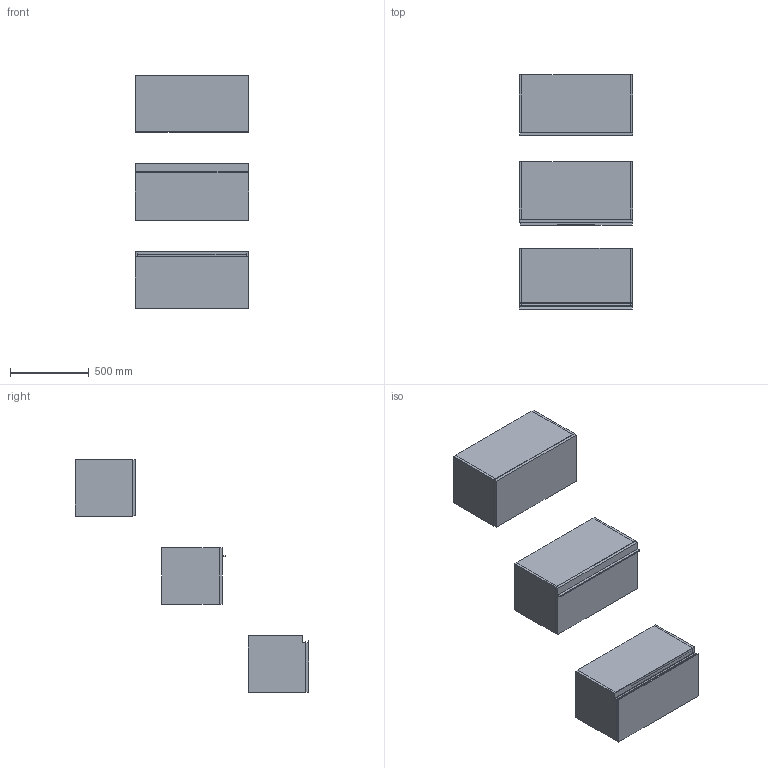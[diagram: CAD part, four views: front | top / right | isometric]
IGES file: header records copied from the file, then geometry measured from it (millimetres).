
Start section: Data from Parasolid IGES Translator 19.0.9, Copyright(c) 2006 Siemens PL M Software. All Rights Reserved.
Global section: file name: noorth-SI-H 36 D 38,8 W 72_8334.igs; native system: By Siemens PLM Incorporated; preprocessor: XPlus GENERIC/IGES 19.0.9; author: Noname; organization: Noname; date: 20200530.133007; units: metre
Bounding box: 721.02 x 1485.1 x 1480 mm (x, y, z)
Volume: 52724993.7 mm3; surface area: 8011581.4 mm2
Topology: 20 solids, 20 shells, 178 faces, 382 edges, 234 vertices
Faces by surface type: plane 134, extrusion 16, bspline 16, cylinder 12
